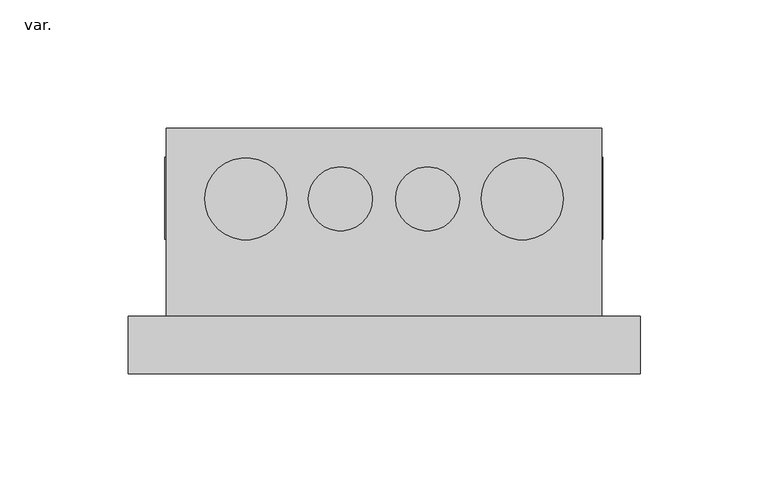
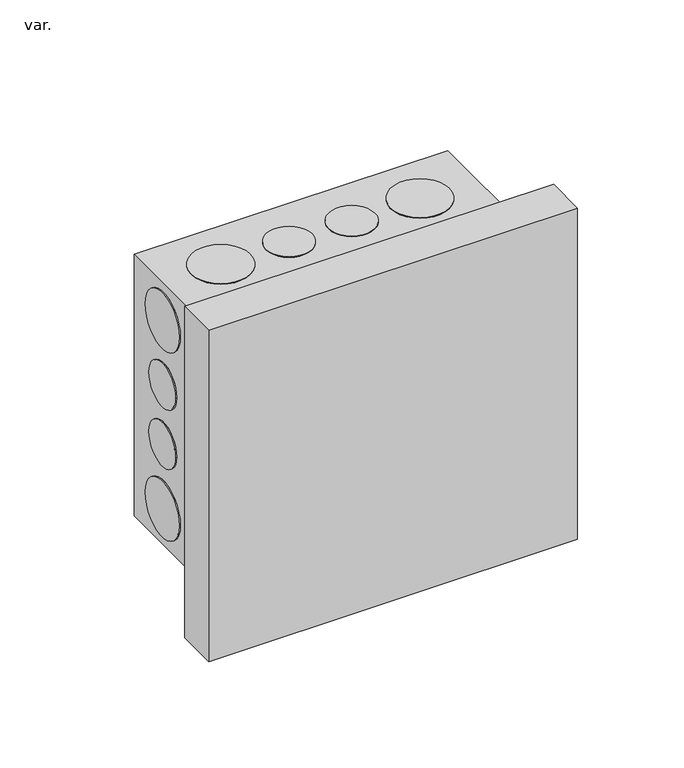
"""IFC4 building model written with IfcOpenShell, lengths in millimetres: pipe fitting geometry, AmancoWavin_ConexõesdoConduite_LinhaEletricaCorrugadoCuadroDistribucao4D : var.."""

from ifc_helpers import new_model, si_unit, frame, origin, place, context, project, spatial, polyline, circle_curve, source, transform, mapped, element, save
from ifc_brep_helpers import plane_surface, cylinder_surface, revolved_surface, advanced_brep


def var_dc263d33(model_context):
    return source(origin(), model_context, "Body", "AdvancedBrep", [
        advanced_brep(
        [(100.0, 22.5, 95.0), (100.0, 22.5, -95.0), (-100.0, 22.5, -95.0), (-100.0, 22.5, 95.0), (85.0, 22.5, -75.0), (85.0, 22.5, 75.0), (-85.0, 22.5, 75.0), (-85.0, 22.5, -75.0), (100.0, 0.0, 95.0), (100.0, 0.0, -95.0), (-100.0, 0.0, -95.0), (-100.0, 0.0, 95.0), (85.0, 96.0, 75.0), (85.0, 96.0, -75.0), (-85.0, 96.0, -75.0), (-85.0, 96.0, 75.0), (-52.5, 96.0, 53.0), (-77.5, 96.0, 53.0), (-49.0, 96.0, -54.6498552), (-81.0, 96.0, -54.6498552), (52.5, 96.0, 53.0), (77.5, 96.0, 53.0), (49.0, 96.0, -54.6498552), (81.0, 96.0, -54.6498552), (85.0, 56.0, 17.0), (85.0, 81.0, 17.0), (85.0, 52.5, 54.0), (85.0, 84.5, 54.0), (85.0, 56.0, -17.0), (85.0, 81.0, -17.0), (85.0, 52.5, -54.0), (85.0, 84.5, -54.0), (-70.0, 68.3, -75.0), (-38.0, 68.3, -75.0), (-29.5, 68.3, -75.0), (-4.5, 68.3, -75.0), (70.0, 68.3, -75.0), (38.0, 68.3, -75.0), (29.5, 68.3, -75.0), (4.5, 68.3, -75.0), (-85.0, 81.0, 17.0), (-85.0, 56.0, 17.0), (-85.0, 84.5, 54.0), (-85.0, 52.5, 54.0), (-85.0, 81.0, -17.0), (-85.0, 56.0, -17.0), (-85.0, 84.5, -54.0), (-85.0, 52.5, -54.0), (-38.0, 68.3, 75.0), (-70.0, 68.3, 75.0), (-4.5, 68.3, 75.0), (-29.5, 68.3, 75.0), (38.0, 68.3, 75.0), (70.0, 68.3, 75.0), (4.5, 68.3, 75.0), (29.5, 68.3, 75.0), (-77.5, 95.0, 53.0), (-52.5, 95.0, 53.0), (-81.0, 95.0, -54.6498552), (-49.0, 95.0, -54.6498552), (77.5, 95.0, 53.0), (52.5, 95.0, 53.0), (81.0, 95.0, -54.6498552), (49.0, 95.0, -54.6498552), (-85.6630129, 56.0, 17.0), (-85.6630129, 81.0, 17.0), (-85.6630129, 52.5, 54.0), (-85.6630129, 84.5, 54.0), (-85.6630129, 56.0, -17.0), (-85.6630129, 81.0, -17.0), (-85.6630129, 52.5, -54.0), (-85.6630129, 84.5, -54.0), (85.4570708, 56.0, 17.0), (85.4570708, 81.0, 17.0), (85.4570708, 52.5, 54.0), (85.4570708, 84.5, 54.0), (85.4570708, 56.0, -17.0), (85.4570708, 81.0, -17.0), (85.4570708, 52.5, -54.0), (85.4570708, 84.5, -54.0), (-70.0, 68.3, 75.3532589), (-38.0, 68.3, 75.3532589), (-29.5, 68.3, 75.3532589), (-4.5, 68.3, 75.3532589), (70.0, 68.3, 75.3532589), (38.0, 68.3, 75.3532589), (29.5, 68.3, 75.3532589), (4.5, 68.3, 75.3532589), (-70.0, 68.3, -75.2845122), (-38.0, 68.3, -75.2845122), (-29.5, 68.3, -75.2845122), (-4.5, 68.3, -75.2845122), (70.0, 68.3, -75.2845122), (38.0, 68.3, -75.2845122), (29.5, 68.3, -75.2845122), (4.5, 68.3, -75.2845122)],
        [
            (0, 1),
            (1, 2),
            (2, 3),
            (3, 0),
            (4, 5),
            (5, 6),
            (6, 7),
            (7, 4),
            (0, 8),
            (8, 9),
            (9, 1),
            (9, 10),
            (10, 2),
            (10, 11),
            (11, 3),
            (11, 8),
            (12, 13),
            (13, 14),
            (14, 15),
            (15, 12),
            (16, 17, circle_curve(frame((-65.0, 96.0, 53.0), z_axis=(0.0, -1.0, 0.0), x_axis=(1.0, 0.0, 0.0)), 12.5)),
            (17, 16, circle_curve(frame((-65.0, 96.0, 53.0), z_axis=(0.0, -1.0, 0.0), x_axis=(1.0, 0.0, 0.0)), 12.5)),
            (18, 19, circle_curve(frame((-65.0, 96.0, -54.6498552), z_axis=(0.0, -1.0, 0.0), x_axis=(1.0, 0.0, 0.0)), 16.0)),
            (19, 18, circle_curve(frame((-65.0, 96.0, -54.6498552), z_axis=(0.0, -1.0, 0.0), x_axis=(1.0, 0.0, 0.0)), 16.0)),
            (20, 21, circle_curve(frame((65.0, 96.0, 53.0), z_axis=(0.0, -1.0, 0.0), x_axis=(-1.0, 0.0, 0.0)), 12.5)),
            (21, 20, circle_curve(frame((65.0, 96.0, 53.0), z_axis=(0.0, -1.0, 0.0), x_axis=(-1.0, 0.0, 0.0)), 12.5)),
            (22, 23, circle_curve(frame((65.0, 96.0, -54.6498552), z_axis=(0.0, -1.0, 0.0), x_axis=(-1.0, 0.0, 0.0)), 16.0)),
            (23, 22, circle_curve(frame((65.0, 96.0, -54.6498552), z_axis=(0.0, -1.0, 0.0), x_axis=(-1.0, 0.0, 0.0)), 16.0)),
            (12, 5),
            (4, 13),
            (24, 25, circle_curve(frame((85.0, 68.5, 17.0), z_axis=(-1.0, 0.0, 0.0), x_axis=(0.0, 1.0, 0.0)), 12.5)),
            (25, 24, circle_curve(frame((85.0, 68.5, 17.0), z_axis=(-1.0, 0.0, 0.0), x_axis=(0.0, 1.0, 0.0)), 12.5)),
            (26, 27, circle_curve(frame((85.0, 68.5, 54.0), z_axis=(-1.0, 0.0, 0.0), x_axis=(0.0, 1.0, 0.0)), 16.0)),
            (27, 26, circle_curve(frame((85.0, 68.5, 54.0), z_axis=(-1.0, 0.0, 0.0), x_axis=(0.0, 1.0, 0.0)), 16.0)),
            (28, 29, circle_curve(frame((85.0, 68.5, -17.0), z_axis=(-1.0, 0.0, 0.0), x_axis=(0.0, 1.0, 0.0)), 12.5)),
            (29, 28, circle_curve(frame((85.0, 68.5, -17.0), z_axis=(-1.0, 0.0, 0.0), x_axis=(0.0, 1.0, 0.0)), 12.5)),
            (30, 31, circle_curve(frame((85.0, 68.5, -54.0), z_axis=(-1.0, 0.0, 0.0), x_axis=(0.0, 1.0, 0.0)), 16.0)),
            (31, 30, circle_curve(frame((85.0, 68.5, -54.0), z_axis=(-1.0, 0.0, 0.0), x_axis=(0.0, 1.0, 0.0)), 16.0)),
            (7, 14),
            (32, 33, circle_curve(frame((-54.0, 68.3, -75.0), z_axis=(0.0, 0.0, 1.0), x_axis=(1.0, 0.0, 0.0)), 16.0)),
            (33, 32, circle_curve(frame((-54.0, 68.3, -75.0), z_axis=(0.0, 0.0, 1.0), x_axis=(1.0, 0.0, 0.0)), 16.0)),
            (34, 35, circle_curve(frame((-17.0, 68.3, -75.0), z_axis=(0.0, 0.0, 1.0), x_axis=(1.0, 0.0, 0.0)), 12.5)),
            (35, 34, circle_curve(frame((-17.0, 68.3, -75.0), z_axis=(0.0, 0.0, 1.0), x_axis=(1.0, 0.0, 0.0)), 12.5)),
            (36, 37, circle_curve(frame((54.0, 68.3, -75.0), z_axis=(0.0, 0.0, 1.0), x_axis=(-1.0, 0.0, 0.0)), 16.0)),
            (37, 36, circle_curve(frame((54.0, 68.3, -75.0), z_axis=(0.0, 0.0, 1.0), x_axis=(-1.0, 0.0, 0.0)), 16.0)),
            (38, 39, circle_curve(frame((17.0, 68.3, -75.0), z_axis=(0.0, 0.0, 1.0), x_axis=(-1.0, 0.0, 0.0)), 12.5)),
            (39, 38, circle_curve(frame((17.0, 68.3, -75.0), z_axis=(0.0, 0.0, 1.0), x_axis=(-1.0, 0.0, 0.0)), 12.5)),
            (6, 15),
            (40, 41, circle_curve(frame((-85.0, 68.5, 17.0), z_axis=(1.0, 0.0, 0.0), x_axis=(0.0, 1.0, 0.0)), 12.5)),
            (41, 40, circle_curve(frame((-85.0, 68.5, 17.0), z_axis=(1.0, 0.0, 0.0), x_axis=(0.0, 1.0, 0.0)), 12.5)),
            (42, 43, circle_curve(frame((-85.0, 68.5, 54.0), z_axis=(1.0, 0.0, 0.0), x_axis=(0.0, 1.0, 0.0)), 16.0)),
            (43, 42, circle_curve(frame((-85.0, 68.5, 54.0), z_axis=(1.0, 0.0, 0.0), x_axis=(0.0, 1.0, 0.0)), 16.0)),
            (44, 45, circle_curve(frame((-85.0, 68.5, -17.0), z_axis=(1.0, 0.0, 0.0), x_axis=(0.0, 1.0, 0.0)), 12.5)),
            (45, 44, circle_curve(frame((-85.0, 68.5, -17.0), z_axis=(1.0, 0.0, 0.0), x_axis=(0.0, 1.0, 0.0)), 12.5)),
            (46, 47, circle_curve(frame((-85.0, 68.5, -54.0), z_axis=(1.0, 0.0, 0.0), x_axis=(0.0, 1.0, 0.0)), 16.0)),
            (47, 46, circle_curve(frame((-85.0, 68.5, -54.0), z_axis=(1.0, 0.0, 0.0), x_axis=(0.0, 1.0, 0.0)), 16.0)),
            (48, 49, circle_curve(frame((-54.0, 68.3, 75.0), z_axis=(0.0, 0.0, -1.0), x_axis=(1.0, 0.0, 0.0)), 16.0)),
            (49, 48, circle_curve(frame((-54.0, 68.3, 75.0), z_axis=(0.0, 0.0, -1.0), x_axis=(1.0, 0.0, 0.0)), 16.0)),
            (50, 51, circle_curve(frame((-17.0, 68.3, 75.0), z_axis=(0.0, 0.0, -1.0), x_axis=(1.0, 0.0, 0.0)), 12.5)),
            (51, 50, circle_curve(frame((-17.0, 68.3, 75.0), z_axis=(0.0, 0.0, -1.0), x_axis=(1.0, 0.0, 0.0)), 12.5)),
            (52, 53, circle_curve(frame((54.0, 68.3, 75.0), z_axis=(0.0, 0.0, -1.0), x_axis=(-1.0, 0.0, 0.0)), 16.0)),
            (53, 52, circle_curve(frame((54.0, 68.3, 75.0), z_axis=(0.0, 0.0, -1.0), x_axis=(-1.0, 0.0, 0.0)), 16.0)),
            (54, 55, circle_curve(frame((17.0, 68.3, 75.0), z_axis=(0.0, 0.0, -1.0), x_axis=(-1.0, 0.0, 0.0)), 12.5)),
            (55, 54, circle_curve(frame((17.0, 68.3, 75.0), z_axis=(0.0, 0.0, -1.0), x_axis=(-1.0, 0.0, 0.0)), 12.5)),
            (56, 57, circle_curve(frame((-65.0, 95.0, 53.0), z_axis=(0.0, 1.0, 0.0), x_axis=(1.0, 0.0, 0.0)), 12.5)),
            (57, 56, circle_curve(frame((-65.0, 95.0, 53.0), z_axis=(0.0, 1.0, 0.0), x_axis=(1.0, 0.0, 0.0)), 12.5)),
            (58, 59, circle_curve(frame((-65.0, 95.0, -54.6498552), z_axis=(0.0, 1.0, 0.0), x_axis=(1.0, 0.0, 0.0)), 16.0)),
            (59, 58, circle_curve(frame((-65.0, 95.0, -54.6498552), z_axis=(0.0, 1.0, 0.0), x_axis=(1.0, 0.0, 0.0)), 16.0)),
            (60, 61, circle_curve(frame((65.0, 95.0, 53.0), z_axis=(0.0, 1.0, 0.0), x_axis=(-1.0, 0.0, 0.0)), 12.5)),
            (61, 60, circle_curve(frame((65.0, 95.0, 53.0), z_axis=(0.0, 1.0, 0.0), x_axis=(-1.0, 0.0, 0.0)), 12.5)),
            (62, 63, circle_curve(frame((65.0, 95.0, -54.6498552), z_axis=(0.0, 1.0, 0.0), x_axis=(-1.0, 0.0, 0.0)), 16.0)),
            (63, 62, circle_curve(frame((65.0, 95.0, -54.6498552), z_axis=(0.0, 1.0, 0.0), x_axis=(-1.0, 0.0, 0.0)), 16.0)),
            (56, 17),
            (16, 57),
            (64, 65, circle_curve(frame((-85.6630129, 68.5, 17.0), z_axis=(-1.0, 0.0, 0.0), x_axis=(0.0, 1.0, 0.0)), 12.5)),
            (65, 64, circle_curve(frame((-85.6630129, 68.5, 17.0), z_axis=(-1.0, 0.0, 0.0), x_axis=(0.0, 1.0, 0.0)), 12.5)),
            (66, 67, circle_curve(frame((-85.6630129, 68.5, 54.0), z_axis=(-1.0, 0.0, 0.0), x_axis=(0.0, 1.0, 0.0)), 16.0)),
            (67, 66, circle_curve(frame((-85.6630129, 68.5, 54.0), z_axis=(-1.0, 0.0, 0.0), x_axis=(0.0, 1.0, 0.0)), 16.0)),
            (68, 69, circle_curve(frame((-85.6630129, 68.5, -17.0), z_axis=(-1.0, 0.0, 0.0), x_axis=(0.0, 1.0, 0.0)), 12.5)),
            (69, 68, circle_curve(frame((-85.6630129, 68.5, -17.0), z_axis=(-1.0, 0.0, 0.0), x_axis=(0.0, 1.0, 0.0)), 12.5)),
            (70, 71, circle_curve(frame((-85.6630129, 68.5, -54.0), z_axis=(-1.0, 0.0, 0.0), x_axis=(0.0, 1.0, 0.0)), 16.0)),
            (71, 70, circle_curve(frame((-85.6630129, 68.5, -54.0), z_axis=(-1.0, 0.0, 0.0), x_axis=(0.0, 1.0, 0.0)), 16.0)),
            (72, 73, circle_curve(frame((85.4570708, 68.5, 17.0), z_axis=(1.0, 0.0, 0.0), x_axis=(0.0, 1.0, 0.0)), 12.5)),
            (73, 72, circle_curve(frame((85.4570708, 68.5, 17.0), z_axis=(1.0, 0.0, 0.0), x_axis=(0.0, 1.0, 0.0)), 12.5)),
            (74, 75, circle_curve(frame((85.4570708, 68.5, 54.0), z_axis=(1.0, 0.0, 0.0), x_axis=(0.0, 1.0, 0.0)), 16.0)),
            (75, 74, circle_curve(frame((85.4570708, 68.5, 54.0), z_axis=(1.0, 0.0, 0.0), x_axis=(0.0, 1.0, 0.0)), 16.0)),
            (76, 77, circle_curve(frame((85.4570708, 68.5, -17.0), z_axis=(1.0, 0.0, 0.0), x_axis=(0.0, 1.0, 0.0)), 12.5)),
            (77, 76, circle_curve(frame((85.4570708, 68.5, -17.0), z_axis=(1.0, 0.0, 0.0), x_axis=(0.0, 1.0, 0.0)), 12.5)),
            (78, 79, circle_curve(frame((85.4570708, 68.5, -54.0), z_axis=(1.0, 0.0, 0.0), x_axis=(0.0, 1.0, 0.0)), 16.0)),
            (79, 78, circle_curve(frame((85.4570708, 68.5, -54.0), z_axis=(1.0, 0.0, 0.0), x_axis=(0.0, 1.0, 0.0)), 16.0)),
            (64, 41),
            (40, 65),
            (73, 25),
            (24, 72),
            (66, 43),
            (42, 67),
            (75, 27),
            (26, 74),
            (80, 81, circle_curve(frame((-54.0, 68.3, 75.3532589), z_axis=(0.0, 0.0, 1.0), x_axis=(1.0, 0.0, 0.0)), 16.0)),
            (81, 80, circle_curve(frame((-54.0, 68.3, 75.3532589), z_axis=(0.0, 0.0, 1.0), x_axis=(1.0, 0.0, 0.0)), 16.0)),
            (82, 83, circle_curve(frame((-17.0, 68.3, 75.3532589), z_axis=(0.0, 0.0, 1.0), x_axis=(1.0, 0.0, 0.0)), 12.5)),
            (83, 82, circle_curve(frame((-17.0, 68.3, 75.3532589), z_axis=(0.0, 0.0, 1.0), x_axis=(1.0, 0.0, 0.0)), 12.5)),
            (84, 85, circle_curve(frame((54.0, 68.3, 75.3532589), z_axis=(0.0, 0.0, 1.0), x_axis=(-1.0, 0.0, 0.0)), 16.0)),
            (85, 84, circle_curve(frame((54.0, 68.3, 75.3532589), z_axis=(0.0, 0.0, 1.0), x_axis=(-1.0, 0.0, 0.0)), 16.0)),
            (86, 87, circle_curve(frame((17.0, 68.3, 75.3532589), z_axis=(0.0, 0.0, 1.0), x_axis=(-1.0, 0.0, 0.0)), 12.5)),
            (87, 86, circle_curve(frame((17.0, 68.3, 75.3532589), z_axis=(0.0, 0.0, 1.0), x_axis=(-1.0, 0.0, 0.0)), 12.5)),
            (88, 89, circle_curve(frame((-54.0, 68.3, -75.2845122), z_axis=(0.0, 0.0, -1.0), x_axis=(1.0, 0.0, 0.0)), 16.0)),
            (89, 88, circle_curve(frame((-54.0, 68.3, -75.2845122), z_axis=(0.0, 0.0, -1.0), x_axis=(1.0, 0.0, 0.0)), 16.0)),
            (90, 91, circle_curve(frame((-17.0, 68.3, -75.2845122), z_axis=(0.0, 0.0, -1.0), x_axis=(1.0, 0.0, 0.0)), 12.5)),
            (91, 90, circle_curve(frame((-17.0, 68.3, -75.2845122), z_axis=(0.0, 0.0, -1.0), x_axis=(1.0, 0.0, 0.0)), 12.5)),
            (92, 93, circle_curve(frame((54.0, 68.3, -75.2845122), z_axis=(0.0, 0.0, -1.0), x_axis=(-1.0, 0.0, 0.0)), 16.0)),
            (93, 92, circle_curve(frame((54.0, 68.3, -75.2845122), z_axis=(0.0, 0.0, -1.0), x_axis=(-1.0, 0.0, 0.0)), 16.0)),
            (94, 95, circle_curve(frame((17.0, 68.3, -75.2845122), z_axis=(0.0, 0.0, -1.0), x_axis=(-1.0, 0.0, 0.0)), 12.5)),
            (95, 94, circle_curve(frame((17.0, 68.3, -75.2845122), z_axis=(0.0, 0.0, -1.0), x_axis=(-1.0, 0.0, 0.0)), 12.5)),
            (80, 49),
            (48, 81),
            (89, 33),
            (32, 88),
            (82, 51),
            (50, 83),
            (91, 35),
            (34, 90),
            (68, 45),
            (44, 69),
            (77, 29),
            (28, 76),
            (70, 47),
            (46, 71),
            (79, 31),
            (30, 78),
            (58, 19),
            (18, 59),
            (60, 21),
            (20, 61),
            (62, 23),
            (22, 63),
            (84, 53),
            (52, 85),
            (93, 37),
            (36, 92),
            (86, 55),
            (54, 87),
            (95, 39),
            (38, 94),
        ],
        [
            plane_surface(frame((100.0, 22.5, 200.5423623), z_axis=(0.0, 1.0, 0.0), x_axis=(0.0, 0.0, -1.0))),
            plane_surface(frame((100.0, 22.5, 95.0), z_axis=(1.0, 0.0, 0.0), x_axis=(0.0, -1.0, 0.0))),
            plane_surface(frame((100.0, 22.5, -95.0), z_axis=(0.0, 0.0, -1.0), x_axis=(0.0, -1.0, 0.0))),
            plane_surface(frame((-100.0, 22.5, -95.0), z_axis=(-1.0, 0.0, 0.0), x_axis=(0.0, -1.0, 0.0))),
            plane_surface(frame((-100.0, 22.5, 95.0), z_axis=(0.0, 0.0, 1.0), x_axis=(0.0, -1.0, 0.0))),
            plane_surface(frame((85.0, 96.0, 132.4195146), z_axis=(0.0, 1.0, 0.0), x_axis=(0.0, 0.0, -1.0))),
            plane_surface(frame((85.0, 0.0, 132.4195146), z_axis=(0.0, -1.0, 0.0), x_axis=(0.0, 0.0, 1.0))),
            plane_surface(frame((85.0, 96.0, 75.0), z_axis=(1.0, 0.0, 0.0), x_axis=(0.0, -1.0, 0.0))),
            plane_surface(frame((85.0, 96.0, -75.0), z_axis=(0.0, 0.0, -1.0), x_axis=(0.0, -1.0, 0.0))),
            plane_surface(frame((-85.0, 96.0, -75.0), z_axis=(-1.0, 0.0, 0.0), x_axis=(0.0, -1.0, 0.0))),
            plane_surface(frame((-85.0, 96.0, 75.0), z_axis=(0.0, 0.0, 1.0), x_axis=(0.0, -1.0, 0.0))),
            plane_surface(frame((-52.5, 95.0, 53.0), z_axis=(0.0, 1.0, 0.0), x_axis=(0.0, 0.0, 1.0))),
            revolved_surface(polyline([(-52.5, 96.0, 53.0), (-52.5, 95.0, 53.0)]), (-65.0, 95.0, 53.0), (0.0, 1.0, 0.0)),
            plane_surface(frame((-85.6630129, 81.0, 17.0), z_axis=(-1.0, 0.0, 0.0), x_axis=(0.0, 0.0, -1.0))),
            plane_surface(frame((85.4570708, 81.0, 17.0), z_axis=(1.0, 0.0, 0.0), x_axis=(0.0, 0.0, 1.0))),
            cylinder_surface(frame((85.4570708, 68.5, 17.0), z_axis=(-1.0, 0.0, 0.0), x_axis=(0.0, 1.0, 0.0)), 12.5),
            cylinder_surface(frame((0.0, 68.5, 54.0), z_axis=(-1.0, 0.0, 0.0), x_axis=(0.0, 1.0, 0.0)), 16.0),
            plane_surface(frame((-38.0, 68.3, 75.3532589), z_axis=(0.0, 0.0, 1.0), x_axis=(0.0, 1.0, 0.0))),
            plane_surface(frame((-38.0, 68.3, -75.2845122), z_axis=(0.0, 0.0, -1.0), x_axis=(0.0, -1.0, 0.0))),
            cylinder_surface(frame((-54.0, 68.3, -75.2845122), z_axis=(0.0, 0.0, 1.0), x_axis=(1.0, 0.0, 0.0)), 16.0),
            cylinder_surface(frame((-17.0, 68.3, 0.0), z_axis=(0.0, 0.0, 1.0), x_axis=(1.0, 0.0, 0.0)), 12.5),
            cylinder_surface(frame((0.0, 68.5, -17.0), z_axis=(-1.0, 0.0, 0.0), x_axis=(0.0, 1.0, 0.0)), 12.5),
            cylinder_surface(frame((0.0, 68.5, -54.0), z_axis=(-1.0, 0.0, 0.0), x_axis=(0.0, 1.0, 0.0)), 16.0),
            revolved_surface(polyline([(-49.0, 96.0, -54.6498552), (-49.0, 95.0, -54.6498552)]), (-65.0, 0.0, -54.6498552), (0.0, 1.0, 0.0)),
            revolved_surface(polyline([(52.5, 96.0, 53.0), (52.5, 95.0, 53.0)]), (65.0, 0.0, 53.0), (0.0, 1.0, 0.0)),
            revolved_surface(polyline([(49.0, 96.0, -54.6498552), (49.0, 95.0, -54.6498552)]), (65.0, 0.0, -54.6498552), (0.0, 1.0, 0.0)),
            cylinder_surface(frame((54.0, 68.3, 0.0), z_axis=(0.0, 0.0, 1.0), x_axis=(-1.0, 0.0, 0.0)), 16.0),
            cylinder_surface(frame((17.0, 68.3, 0.0), z_axis=(0.0, 0.0, 1.0), x_axis=(-1.0, 0.0, 0.0)), 12.5),
        ],
        [
            (0, [[1, 2, 3, 4], [5, 6, 7, 8]]),
            (1, [[-1, 9, 10, 11]]),
            (2, [[-2, -11, 12, 13]]),
            (3, [[-3, -13, 14, 15]]),
            (4, [[-4, -15, 16, -9]]),
            (5, [[17, 18, 19, 20], [21, 22], [23, 24], [25, 26], [27, 28]]),
            (6, [[-16, -14, -12, -10]]),
            (7, [[-17, 29, -5, 30], [31, 32], [33, 34], [35, 36], [37, 38]]),
            (8, [[-18, -30, -8, 39], [40, 41], [42, 43], [44, 45], [46, 47]]),
            (9, [[-19, -39, -7, 48], [49, 50], [51, 52], [53, 54], [55, 56]]),
            (10, [[-20, -48, -6, -29], [57, 58], [59, 60], [61, 62], [63, 64]]),
            (11, [[65, 66]]),
            (11, [[67, 68]]),
            (11, [[69, 70]]),
            (11, [[71, 72]]),
            (12, [[-65, 73, -21, 74]]),
            (12, [[-66, -74, -22, -73]]),
            (13, [[75, 76]]),
            (13, [[77, 78]]),
            (13, [[79, 80]]),
            (13, [[81, 82]]),
            (14, [[83, 84]]),
            (14, [[85, 86]]),
            (14, [[87, 88]]),
            (14, [[89, 90]]),
            (15, [[-75, 91, -49, 92]]),
            (15, [[-84, 93, -31, 94]]),
            (15, [[-76, -92, -50, -91]]),
            (15, [[-83, -94, -32, -93]]),
            (16, [[-77, 95, -51, 96]]),
            (16, [[-86, 97, -33, 98]]),
            (16, [[-78, -96, -52, -95]]),
            (16, [[-85, -98, -34, -97]]),
            (17, [[99, 100]]),
            (17, [[101, 102]]),
            (17, [[103, 104]]),
            (17, [[105, 106]]),
            (18, [[107, 108]]),
            (18, [[109, 110]]),
            (18, [[111, 112]]),
            (18, [[113, 114]]),
            (19, [[-99, 115, -57, 116]]),
            (19, [[-108, 117, -40, 118]]),
            (19, [[-100, -116, -58, -115]]),
            (19, [[-107, -118, -41, -117]]),
            (20, [[-101, 119, -59, 120]]),
            (20, [[-110, 121, -42, 122]]),
            (20, [[-102, -120, -60, -119]]),
            (20, [[-109, -122, -43, -121]]),
            (21, [[-79, 123, -53, 124]]),
            (21, [[-88, 125, -35, 126]]),
            (21, [[-80, -124, -54, -123]]),
            (21, [[-87, -126, -36, -125]]),
            (22, [[-81, 127, -55, 128]]),
            (22, [[-90, 129, -37, 130]]),
            (22, [[-82, -128, -56, -127]]),
            (22, [[-89, -130, -38, -129]]),
            (23, [[-67, 131, -23, 132]]),
            (23, [[-68, -132, -24, -131]]),
            (24, [[-69, 133, -25, 134]]),
            (24, [[-70, -134, -26, -133]]),
            (25, [[-71, 135, -27, 136]]),
            (25, [[-72, -136, -28, -135]]),
            (26, [[-103, 137, -61, 138]]),
            (26, [[-112, 139, -44, 140]]),
            (26, [[-104, -138, -62, -137]]),
            (26, [[-111, -140, -45, -139]]),
            (27, [[-105, 141, -63, 142]]),
            (27, [[-114, 143, -46, 144]]),
            (27, [[-106, -142, -64, -141]]),
            (27, [[-113, -144, -47, -143]]),
        ],
    ),
    ])


if __name__ == "__main__":
    model = new_model("IFC4")
    model_context = context("Model", 3, world=origin())
    ifc_project = project(units=[si_unit("LENGTHUNIT", "METRE", prefix="MILLI")], contexts=[model_context])
    site = spatial("IfcSite", under=ifc_project)
    building = spatial("IfcBuilding", under=site)
    placement = place(None, origin())
    var_shape = var_dc263d33(model_context)
    element("IfcPipeFitting", 1, ObjectType="AmancoWavin_ConexõesdoConduite_LinhaEletricaCorrugadoCuadroDistribucao4D : var.", at=placement, inside=building, context=model_context, shape_type="MappedRepresentation", body=[
        mapped(var_shape, transform((0.0, 0.0, 0.0), x_axis=(1.0, 0.0, 0.0), y_axis=(0.0, 1.0, 0.0), z_axis=(0.0, 0.0, 1.0))),
    ])
    save(model, "model.ifc")
